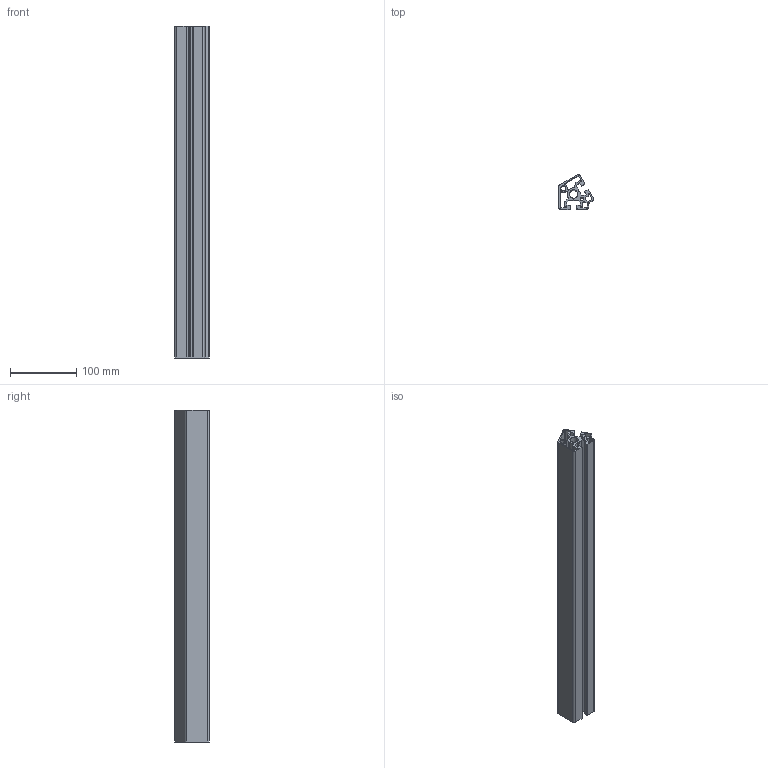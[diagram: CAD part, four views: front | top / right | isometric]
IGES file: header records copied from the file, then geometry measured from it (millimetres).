
Start section: SolidWorks IGES file using analytic representation for surfaces
Global section: file name: C:\Documents and Settings\Administrator\デスクトップ\指定保存後4回目\SolidWorks\SF\SF40・45\Frame\SFF-J84C.IGS; native system: SolidWorks 2006 by SolidWorks Corporation; preprocessor: SolidWorks 2006 by SolidWorks Corporation; author: Administrator; date: 061218.111922; units: millimetre
Bounding box: 52.14 x 52.14 x 500 mm (x, y, z)
Volume: 418070.2 mm3; surface area: 278998.4 mm2
Topology: 1 solids, 1 shells, 115 faces, 339 edges, 226 vertices
Faces by surface type: revolution 59, plane 56
